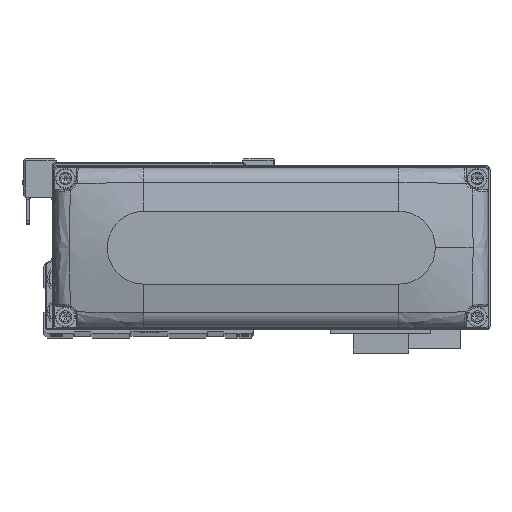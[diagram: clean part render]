
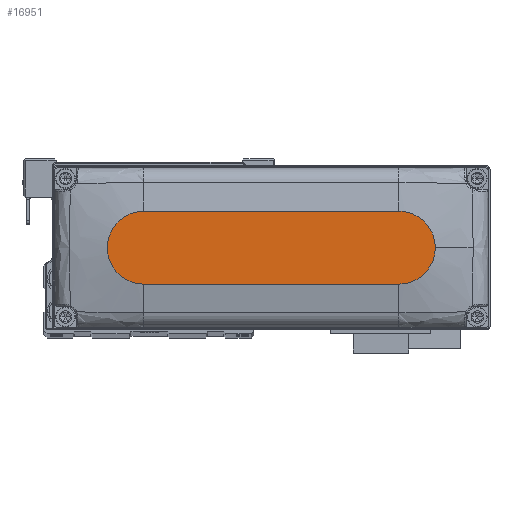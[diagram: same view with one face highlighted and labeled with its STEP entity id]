
A CAD part, top view. The second image highlights one B-rep face of the part: STEP entity #16951.
In plain terms, the highlighted planar face has unit normal (0, 0, 1).
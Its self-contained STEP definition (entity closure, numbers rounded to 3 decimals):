
#833 = VECTOR ( 'NONE', #34863, 1000. ) ;
#2166 = VERTEX_POINT ( 'NONE', #5989 ) ;
#2347 = CARTESIAN_POINT ( 'NONE',  ( -35., -10., 28. ) ) ;
#3550 = CARTESIAN_POINT ( 'NONE',  ( 35., 0., 28. ) ) ;
#4261 = CARTESIAN_POINT ( 'NONE',  ( 35., 10., 28. ) ) ;
#4390 = DIRECTION ( 'NONE',  ( 1., 0., 0. ) ) ;
#4410 = DIRECTION ( 'NONE',  ( 0., 0., 1. ) ) ;
#4850 = CARTESIAN_POINT ( 'NONE',  ( 35., 0., 28. ) ) ;
#5304 = CIRCLE ( 'NONE', #27716, 10. ) ;
#5989 = CARTESIAN_POINT ( 'NONE',  ( -35., 10., 28. ) ) ;
#6199 = VERTEX_POINT ( 'NONE', #22762 ) ;
#7405 = PLANE ( 'NONE',  #7997 ) ;
#7799 = CIRCLE ( 'NONE', #30216, 10. ) ;
#7803 = VERTEX_POINT ( 'NONE', #2347 ) ;
#7997 = AXIS2_PLACEMENT_3D ( 'NONE', #19638, #31871, #4390 ) ;
#8739 = LINE ( 'NONE', #20967, #20327 ) ;
#9238 = CARTESIAN_POINT ( 'NONE',  ( 35., -10., 28. ) ) ;
#10403 = LINE ( 'NONE', #22624, #833 ) ;
#11227 = ORIENTED_EDGE ( 'NONE', *, *, #18540, .T. ) ;
#12275 = ORIENTED_EDGE ( 'NONE', *, *, #19895, .T. ) ;
#13076 = CIRCLE ( 'NONE', #35507, 10. ) ;
#15787 = DIRECTION ( 'NONE',  ( 0., 0., 1. ) ) ;
#15838 = ORIENTED_EDGE ( 'NONE', *, *, #32462, .T. ) ;
#16658 = DIRECTION ( 'NONE',  ( 1., 0., 0. ) ) ;
#16951 = ADVANCED_FACE ( 'NONE', ( #34893 ), #7405, .T. ) ;
#17088 = DIRECTION ( 'NONE',  ( 0., 0., 1. ) ) ;
#17180 = EDGE_CURVE ( 'NONE', #6199, #19470, #7799, .T. ) ;
#18268 = EDGE_CURVE ( 'NONE', #28364, #6199, #5304, .T. ) ;
#18540 = EDGE_CURVE ( 'NONE', #7803, #28364, #10403, .T. ) ;
#19470 = VERTEX_POINT ( 'NONE', #4261 ) ;
#19638 = CARTESIAN_POINT ( 'NONE',  ( 0., 0., 28. ) ) ;
#19895 = EDGE_CURVE ( 'NONE', #2166, #7803, #13076, .T. ) ;
#20327 = VECTOR ( 'NONE', #33200, 1000. ) ;
#20967 = CARTESIAN_POINT ( 'NONE',  ( -35., 10., 28. ) ) ;
#22624 = CARTESIAN_POINT ( 'NONE',  ( -35., -10., 28. ) ) ;
#22762 = CARTESIAN_POINT ( 'NONE',  ( 45., 0., 28. ) ) ;
#27716 = AXIS2_PLACEMENT_3D ( 'NONE', #4850, #17088, #29317 ) ;
#28017 = DIRECTION ( 'NONE',  ( 1., 0., 0. ) ) ;
#28364 = VERTEX_POINT ( 'NONE', #9238 ) ;
#29317 = DIRECTION ( 'NONE',  ( 1., 0., 0. ) ) ;
#29838 = EDGE_LOOP ( 'NONE', ( #15838, #12275, #11227, #35568, #29982 ) ) ;
#29982 = ORIENTED_EDGE ( 'NONE', *, *, #17180, .T. ) ;
#30216 = AXIS2_PLACEMENT_3D ( 'NONE', #3550, #15787, #28017 ) ;
#31871 = DIRECTION ( 'NONE',  ( 0., 0., 1. ) ) ;
#31886 = CARTESIAN_POINT ( 'NONE',  ( -35., 0., 28. ) ) ;
#32462 = EDGE_CURVE ( 'NONE', #19470, #2166, #8739, .T. ) ;
#33200 = DIRECTION ( 'NONE',  ( -1., 0., 0. ) ) ;
#34863 = DIRECTION ( 'NONE',  ( 1., 0., 0. ) ) ;
#34893 = FACE_OUTER_BOUND ( 'NONE', #29838, .T. ) ;
#35507 = AXIS2_PLACEMENT_3D ( 'NONE', #31886, #4410, #16658 ) ;
#35568 = ORIENTED_EDGE ( 'NONE', *, *, #18268, .T. ) ;
